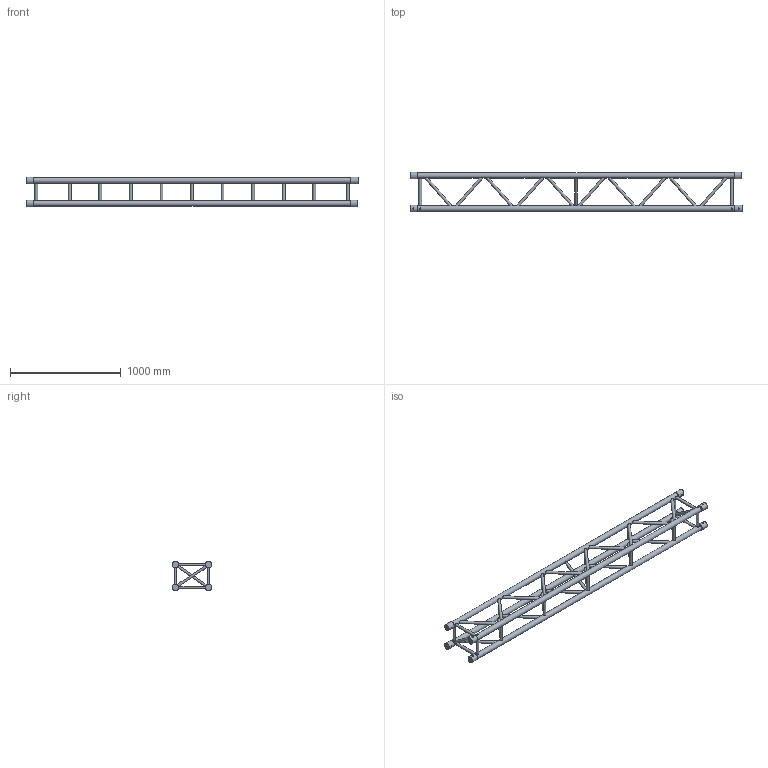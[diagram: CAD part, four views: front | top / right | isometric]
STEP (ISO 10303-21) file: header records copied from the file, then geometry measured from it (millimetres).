
FILE_DESCRIPTION(/* description */ (''),/* implementation_level */ '2;1');
FILE_NAME(/* name */ 'C:\Users\adrian.toca\Desktop\111110052.stp',/* time_stamp */ '2016-09-15T10:37:22+03:00',/* author */ ('adrian.toca'),/* organization */ (''),/* preprocessor_version */ 'ST-DEVELOPER v15.6',/* originating_system */ 'Autodesk Inventor 2015',/* authorisation */ '');
FILE_SCHEMA (('AUTOMOTIVE_DESIGN { 1 0 10303 214 3 1 1 }'));
Length unit declared in the file: millimetre
Products named in the file (1): 260030907
Bounding box: 3000 x 357.8 x 265.8 mm (x, y, z)
Volume: 29124644 mm3; surface area: 2801070.7 mm2
Topology: 18 solids, 24 shells, 238 faces, 470 edges, 292 vertices
Faces by surface type: cylinder 124, plane 106, cone 8
Full cylindrical faces by diameter (mm): 10 x8, 25 x40, 50 x4, 58.8 x8
Entity records: 7925 total; most frequent: CARTESIAN_POINT 3669, DIRECTION 784, ORIENTED_EDGE 708, EDGE_LOOP 388, AXIS2_PLACEMENT_3D 369, EDGE_CURVE 312, VERTEX_POINT 230, STYLED_ITEM 208
